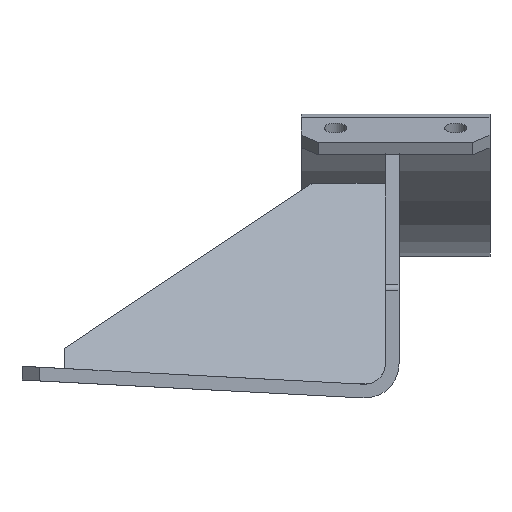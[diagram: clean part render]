
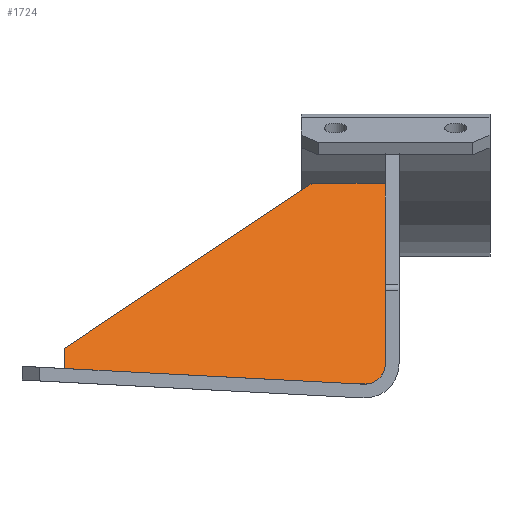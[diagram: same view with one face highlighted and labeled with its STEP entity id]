
A CAD part, front view. The second image highlights one B-rep face of the part: STEP entity #1724.
In plain terms, the highlighted planar face has unit normal (0, -0.707, 0.707).
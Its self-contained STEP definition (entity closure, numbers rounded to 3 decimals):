
#153=ELLIPSE('',#1885,8.485,6.);
#365=PLANE('',#1889);
#441=FACE_OUTER_BOUND('',#535,.T.);
#535=EDGE_LOOP('',(#1608,#1609,#1610,#1611,#1612,#1613,#1614));
#658=LINE('',#2778,#794);
#659=LINE('',#2781,#795);
#668=LINE('',#2805,#804);
#670=LINE('',#2808,#806);
#671=LINE('',#2810,#807);
#672=LINE('',#2812,#808);
#794=VECTOR('',#2302,10.);
#795=VECTOR('',#2305,10.);
#804=VECTOR('',#2326,10.);
#806=VECTOR('',#2330,10.);
#807=VECTOR('',#2333,10.);
#808=VECTOR('',#2336,10.);
#1011=VERTEX_POINT('',#2771);
#1014=VERTEX_POINT('',#2776);
#1015=VERTEX_POINT('',#2780);
#1021=VERTEX_POINT('',#2796);
#1022=VERTEX_POINT('',#2797);
#1023=VERTEX_POINT('',#2802);
#1024=VERTEX_POINT('',#2804);
#1205=EDGE_CURVE('',#1014,#1011,#658,.T.);
#1206=EDGE_CURVE('',#1015,#1011,#659,.T.);
#1214=EDGE_CURVE('',#1021,#1022,#153,.T.);
#1218=EDGE_CURVE('',#1023,#1024,#668,.T.);
#1220=EDGE_CURVE('',#1024,#1014,#670,.T.);
#1221=EDGE_CURVE('',#1022,#1023,#671,.T.);
#1222=EDGE_CURVE('',#1015,#1021,#672,.T.);
#1608=ORIENTED_EDGE('',*,*,#1205,.F.);
#1609=ORIENTED_EDGE('',*,*,#1220,.F.);
#1610=ORIENTED_EDGE('',*,*,#1218,.F.);
#1611=ORIENTED_EDGE('',*,*,#1221,.F.);
#1612=ORIENTED_EDGE('',*,*,#1214,.F.);
#1613=ORIENTED_EDGE('',*,*,#1222,.F.);
#1614=ORIENTED_EDGE('',*,*,#1206,.T.);
#1724=ADVANCED_FACE('',(#441),#365,.F.);
#1885=AXIS2_PLACEMENT_3D('',#2798,#2319,#2320);
#1889=AXIS2_PLACEMENT_3D('',#2811,#2334,#2335);
#2302=DIRECTION('',(0.727,0.486,0.486));
#2305=DIRECTION('',(-1.,0.,0.));
#2319=DIRECTION('center_axis',(0.,0.707,-0.707));
#2320=DIRECTION('ref_axis',(0.,0.707,0.707));
#2326=DIRECTION('',(-0.997,0.052,0.052));
#2330=DIRECTION('',(0.,0.707,0.707));
#2333=DIRECTION('',(-1.,0.,0.));
#2334=DIRECTION('center_axis',(0.,0.707,-0.707));
#2335=DIRECTION('ref_axis',(1.,0.,0.));
#2336=DIRECTION('',(0.,-0.707,-0.707));
#2771=CARTESIAN_POINT('',(10.,-68.385,28.648));
#2776=CARTESIAN_POINT('',(-62.,-116.468,-19.436));
#2778=CARTESIAN_POINT('',(-40.947,-102.409,-5.376));
#2780=CARTESIAN_POINT('',(31.5,-68.385,28.648));
#2781=CARTESIAN_POINT('',(31.5,-68.385,28.648));
#2796=CARTESIAN_POINT('',(31.5,-120.916,-23.883));
#2797=CARTESIAN_POINT('',(26.521,-126.828,-29.796));
#2798=CARTESIAN_POINT('Origin',(25.5,-120.916,-23.883));
#2802=CARTESIAN_POINT('',(23.673,-126.828,-29.796));
#2804=CARTESIAN_POINT('',(-62.,-122.338,-25.306));
#2805=CARTESIAN_POINT('',(-23.731,-124.344,-27.312));
#2808=CARTESIAN_POINT('',(-62.,-68.385,28.648));
#2810=CARTESIAN_POINT('',(31.5,-126.828,-29.796));
#2811=CARTESIAN_POINT('Origin',(31.5,-126.828,-29.796));
#2812=CARTESIAN_POINT('',(31.5,-68.385,28.648));
